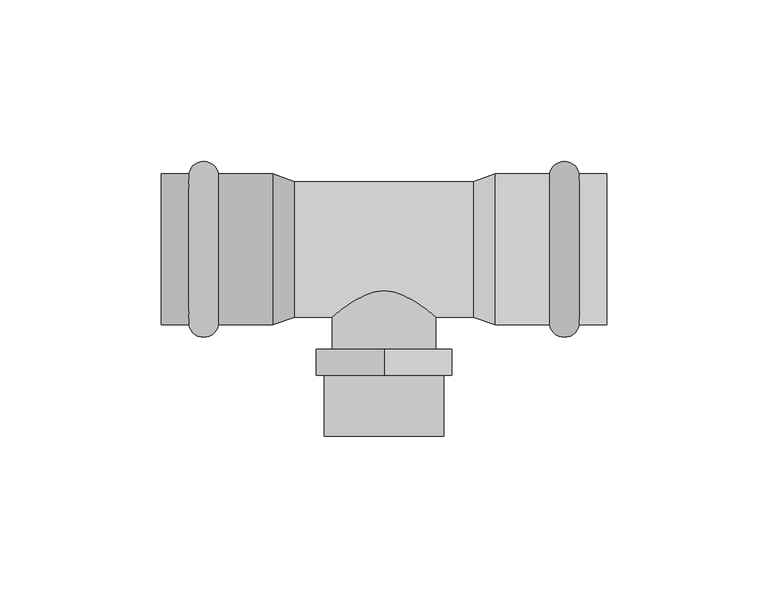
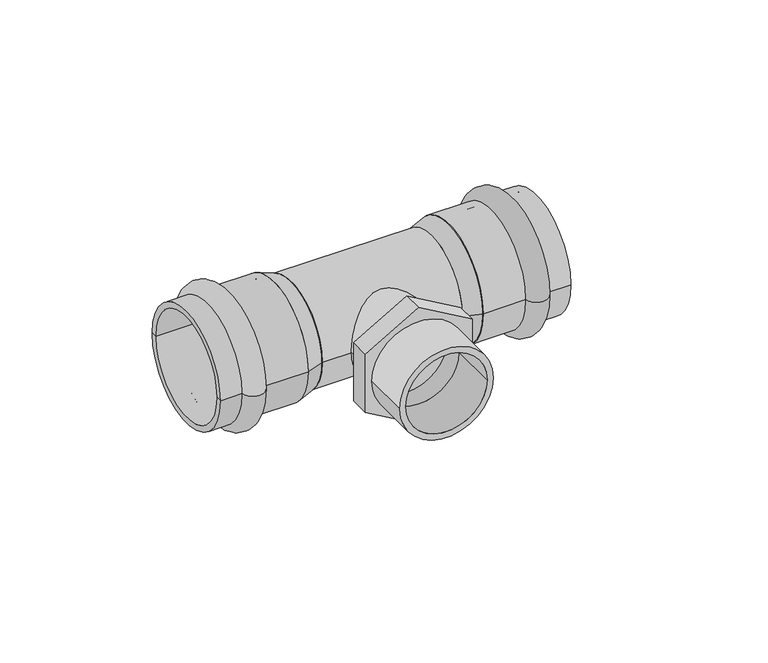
"""IFC4 building model written with IfcOpenShell, lengths in millimetres: pipe fitting geometry, VALTEC_VTi.933.I_Тройник с переходом на наружную  резьбу нержавеющая сталь : VTi.933.I."""

import ifcopenshell
import ifcopenshell.guid

model = None  # the IFC model being written
_history = None  # IfcOwnerHistory: only IFC2X3 demands one
_inside = {}  # id of a spatial element -> (the spatial element, [elements in it])
_under = {}  # id of a project, library or spatial element -> (it, [spatial elements below it])
_declared = {}  # id of a project -> (the project, [libraries it declares])
_typed = {}  # id of a type object -> (the type object, [elements of that type])
_made_of = {}  # id of a material, layer set ... -> (it, [elements and type objects made of it])


def new_model(schema):
    """Start an empty IFC model of exactly this schema.

    Asked for "IFC4X3", IfcOpenShell would pick the latest addendum, in which some entities
    have other attributes; the version numbers below select the first issue.
    IFC2X3 requires an IfcOwnerHistory on every rooted entity: one is made here for all.
    """
    global model, _history
    if schema == "IFC4X3":
        model = ifcopenshell.file(schema_version=(4, 3, 0, 0))
    else:
        model = ifcopenshell.file(schema=schema)
    _inside.clear()
    _under.clear()
    _declared.clear()
    _typed.clear()
    _made_of.clear()
    _history = None
    if model.schema == "IFC2X3":
        org = make("IfcOrganization", Name="unknown")
        user = make(
            "IfcPersonAndOrganization",
            ThePerson=make("IfcPerson", FamilyName="unknown"),
            TheOrganization=org,
        )
        app = make(
            "IfcApplication",
            ApplicationDeveloper=org,
            Version="unknown",
            ApplicationFullName="unknown",
            ApplicationIdentifier="unknown",
        )
        _history = make(
            "IfcOwnerHistory",
            OwningUser=user,
            OwningApplication=app,
            ChangeAction="ADDED",
            CreationDate=0,
        )
    return model


def make(cls, **values):
    """One entity of the class cls with the attributes given. An attribute that is None is left unset."""
    return model.create_entity(
        cls, **{name: value for name, value in values.items() if value is not None}
    )


def rooted(cls, **values):
    """An entity with a GlobalId (a new one), such as an element, a storey or a relation."""
    return make(cls, GlobalId=ifcopenshell.guid.new(), OwnerHistory=_history, **values)


def si_unit(unit_type, name, prefix=None):
    """IfcSIUnit, for example si_unit("LENGTHUNIT", "METRE", prefix="MILLI")."""
    return make("IfcSIUnit", UnitType=unit_type, Prefix=prefix, Name=name)


def assignment(units):
    """IfcUnitAssignment: the units of a project."""
    return None if units is None else make("IfcUnitAssignment", Units=units)


def point(xyz):
    """IfcCartesianPoint."""
    return None if xyz is None else make("IfcCartesianPoint", Coordinates=xyz)


def direction(xyz):
    """IfcDirection."""
    return None if xyz is None else make("IfcDirection", DirectionRatios=xyz)


def frame(location, z_axis=None, x_axis=None):
    """IfcAxis2Placement3D, a coordinate frame: its origin and axes. An axis left out is left unset."""
    return make(
        "IfcAxis2Placement3D",
        Location=point(location),
        Axis=direction(z_axis),
        RefDirection=direction(x_axis),
    )


def frame_2d(location, x_axis=None):
    """IfcAxis2Placement2D, a coordinate frame in the plane: its origin and x axis."""
    return make(
        "IfcAxis2Placement2D", Location=point(location), RefDirection=direction(x_axis)
    )


def origin():
    """The frame at (0, 0, 0) with its axes left unset."""
    return frame((0.0, 0.0, 0.0))


def origin_2d():
    """The frame at (0, 0) in the plane with its x axis left unset."""
    return frame_2d((0.0, 0.0))


def place(relative_to, where):
    """IfcLocalPlacement: puts the frame where relative to a parent placement (None: the world)."""
    return make(
        "IfcLocalPlacement", PlacementRelTo=relative_to, RelativePlacement=where
    )


def context(
    kind, dimensions, precision=None, world=None, true_north=None, identifier=None
):
    """IfcGeometricRepresentationContext, for example the 3D "Model" context."""
    return make(
        "IfcGeometricRepresentationContext",
        ContextIdentifier=identifier,
        ContextType=kind,
        CoordinateSpaceDimension=dimensions,
        Precision=precision,
        WorldCoordinateSystem=world,
        TrueNorth=true_north,
    )


def project(units=None, contexts=None):
    """IfcProject with its units and contexts."""
    return rooted(
        "IfcProject",
        Name="project",
        RepresentationContexts=contexts,
        UnitsInContext=assignment(units),
    )


def spatial(cls, under=None, at=None, **own):
    """A site, building, storey or space (cls), placed at a placement, below another one or the project."""
    s = rooted(cls, ObjectPlacement=at, **own)
    if under is not None:
        _under.setdefault(under.id(), (under, []))[1].append(s)
    return s


def polyline(points):
    """IfcPolyline through the points."""
    return make("IfcPolyline", Points=[point(p) for p in points])


def circle_curve(where, radius):
    """IfcCircle in the frame where."""
    return make("IfcCircle", Position=where, Radius=radius)


def ellipse_curve(where, semi_axis1, semi_axis2):
    """IfcEllipse in the frame where."""
    return make(
        "IfcEllipse", Position=where, SemiAxis1=semi_axis1, SemiAxis2=semi_axis2
    )


def trimmed(basis, trim1, trim2, sense, master):
    """IfcTrimmedCurve: the piece of a basis curve between two trims."""
    return make(
        "IfcTrimmedCurve",
        BasisCurve=basis,
        Trim1=trim1,
        Trim2=trim2,
        SenseAgreement=sense,
        MasterRepresentation=master,
    )


def segment(curve, same_sense, transition):
    """IfcCompositeCurveSegment."""
    return make(
        "IfcCompositeCurveSegment",
        Transition=transition,
        SameSense=same_sense,
        ParentCurve=curve,
    )


def composite_curve(segments, self_intersect=None):
    """IfcCompositeCurve: segments joined end to end."""
    return make("IfcCompositeCurve", Segments=segments, SelfIntersect=self_intersect)


def outline(outer, holes=None, kind="AREA"):
    """IfcArbitraryClosedProfileDef: a profile drawn as a closed curve; with holes, ...WithVoids."""
    if holes is None:
        return make("IfcArbitraryClosedProfileDef", ProfileType=kind, OuterCurve=outer)
    return make(
        "IfcArbitraryProfileDefWithVoids",
        ProfileType=kind,
        OuterCurve=outer,
        InnerCurves=holes,
    )


def extrude(swept, where, along, depth):
    """IfcExtrudedAreaSolid: the profile swept, set in the frame where, extruded along a direction by depth."""
    return make(
        "IfcExtrudedAreaSolid",
        SweptArea=swept,
        Position=where,
        ExtrudedDirection=direction(along),
        Depth=depth,
    )


def shape(context_of_items, identifier, shape_type, items):
    """IfcShapeRepresentation: the items that make up one representation, for example the "Body"."""
    return make(
        "IfcShapeRepresentation",
        ContextOfItems=context_of_items,
        RepresentationIdentifier=identifier,
        RepresentationType=shape_type,
        Items=items,
    )


def source(mapping_origin, context_of_items, identifier, shape_type, items):
    """IfcRepresentationMap: a shape defined once, which mapped items show again and again."""
    return make(
        "IfcRepresentationMap",
        MappingOrigin=mapping_origin,
        MappedRepresentation=shape(context_of_items, identifier, shape_type, items),
    )


def transform(
    local_origin,
    x_axis=None,
    y_axis=None,
    z_axis=None,
    scale=None,
    scale2=None,
    scale3=None,
    uniform=True,
):
    """IfcCartesianTransformationOperator3D, or its non-uniform kind. x_axis, y_axis, z_axis: its Axis1, 2, 3."""
    if uniform:
        return make(
            "IfcCartesianTransformationOperator3D",
            Axis1=direction(x_axis),
            Axis2=direction(y_axis),
            LocalOrigin=point(local_origin),
            Scale=scale,
            Axis3=direction(z_axis),
        )
    return make(
        "IfcCartesianTransformationOperator3DnonUniform",
        Axis1=direction(x_axis),
        Axis2=direction(y_axis),
        LocalOrigin=point(local_origin),
        Scale=scale,
        Axis3=direction(z_axis),
        Scale2=scale2,
        Scale3=scale3,
    )


def mapped(mapping_source, mapping_target):
    """IfcMappedItem: shows the shape of a source again, moved by a transform."""
    return make(
        "IfcMappedItem", MappingSource=mapping_source, MappingTarget=mapping_target
    )


def made_of(thing, what):
    """Note that an element or type object is made of a material, layer set ...; save() writes the relation."""
    if what is not None:
        _made_of.setdefault(what.id(), (what, []))[1].append(thing)
    return thing


def element(
    cls,
    number,
    at=None,
    inside=None,
    cuts=None,
    type_object=None,
    material=None,
    context=None,
    identifier="Body",
    shape_type=None,
    held_by="IfcProductDefinitionShape",
    body=None,
    shapes=None,
    **own,
):
    """One element of the class cls, such as IfcWall. Its Tag is "e" and its number.

    at: its placement. inside: the storey or other place that contains it. cuts: it is an
    opening in that element (IfcRelVoidsElement). A single representation is given by context,
    identifier, shape_type and body (its items); several are given by shapes. held_by: the class
    of the entity that holds the representations. save() writes the other relations.
    """
    e = rooted(cls, Tag="e%d" % number, ObjectPlacement=at, **own)
    if body is not None:
        shapes = [shape(context, identifier, shape_type, body)]
    if shapes is not None:
        e.Representation = make(held_by, Representations=shapes)
    if inside is not None:
        _inside.setdefault(inside.id(), (inside, []))[1].append(e)
    if cuts is not None:
        rooted(
            "IfcRelVoidsElement", RelatingBuildingElement=cuts, RelatedOpeningElement=e
        )
    if type_object is not None:
        _typed.setdefault(type_object.id(), (type_object, []))[1].append(e)
    return made_of(e, material)


def aggregate(whole, parts):
    """IfcRelAggregates: a whole, such as a stair, and the parts it consists of."""
    return rooted("IfcRelAggregates", RelatingObject=whole, RelatedObjects=parts)


def save(model, path):
    """Write the relations noted so far, then the file.

    IfcRelAggregates (storeys below a building ...), IfcRelContainedInSpatialStructure (elements
    in a storey), IfcRelDefinesByType, IfcRelAssociatesMaterial and IfcRelDeclares: one each for
    every whole, place, type object, material and project.
    """
    for whole, parts in _under.values():
        aggregate(whole, parts)
    for where, things in _inside.values():
        rooted(
            "IfcRelContainedInSpatialStructure",
            RelatedElements=things,
            RelatingStructure=where,
        )
    for kind, things in _typed.values():
        rooted("IfcRelDefinesByType", RelatedObjects=things, RelatingType=kind)
    for what, things in _made_of.values():
        rooted("IfcRelAssociatesMaterial", RelatedObjects=things, RelatingMaterial=what)
    for by, libraries in _declared.values():
        rooted("IfcRelDeclares", RelatingContext=by, RelatedDefinitions=libraries)
    model.write(path)


def plane_surface(at):
    """IfcPlane: the flat surface through the origin of the frame at, square to its z axis."""
    return make("IfcPlane", Position=at)


def cylinder_surface(at, radius):
    """IfcCylindricalSurface: all points at the distance radius from the z axis of the frame at."""
    return make("IfcCylindricalSurface", Position=at, Radius=radius)


def revolved_surface(curve, axis_point, axis_direction):
    """IfcSurfaceOfRevolution: the curve turned about the line through axis_point along axis_direction."""
    return make(
        "IfcSurfaceOfRevolution",
        SweptCurve=make("IfcArbitraryOpenProfileDef", ProfileType="CURVE", Curve=curve),
        AxisPosition=make("IfcAxis1Placement", Location=point(axis_point), Axis=direction(axis_direction)),
    )


def advanced_brep(points, edges, surfaces, faces):
    """IfcAdvancedBrep: a solid bounded by faces that lie on surfaces and meet in shared edges.

    An edge is (start, end): straight between two places in points (the first is 0);
    or (start, end, curve); or (start, end, curve, False) where it runs against its curve.
    A face is (place in surfaces, loops), or (place, loops, False) where it looks against
    its surface's normal. A loop lists edges by number (the first is 1), with a minus sign
    where the edge is run from its end to its start. The first loop is the outer one.
    """
    corners = [point(p) for p in points]
    vertices = [make("IfcVertexPoint", VertexGeometry=c) for c in corners]
    made = []
    for start, end, *more in edges:
        made.append(
            make(
                "IfcEdgeCurve",
                EdgeStart=vertices[start],
                EdgeEnd=vertices[end],
                EdgeGeometry=more[0] if more else make("IfcPolyline", Points=[corners[start], corners[end]]),
                SameSense=more[1] if len(more) > 1 else True,
            )
        )
    hull = []
    for where, loops, *sense in faces:
        bounds = []
        for j, loop in enumerate(loops):
            ring = [make("IfcOrientedEdge", EdgeElement=made[abs(k) - 1], Orientation=k > 0) for k in loop]
            bounds.append(
                make(
                    "IfcFaceOuterBound" if j == 0 else "IfcFaceBound",
                    Bound=make("IfcEdgeLoop", EdgeList=ring),
                    Orientation=True,
                )
            )
        hull.append(make("IfcAdvancedFace", Bounds=bounds, FaceSurface=surfaces[where], SameSense=sense[0] if sense else True))
    return make("IfcAdvancedBrep", Outer=make("IfcClosedShell", CfsFaces=hull))


def pipe_fitting_515d8af7(model_context):
    return source(origin(), model_context, "Body", "SolidModel", [
        advanced_brep(
        [(60.4464272, 23.35, 0.0), (60.4464272, -23.35, 0.0), (51.3535728, -23.35, 0.0), (51.3535728, 23.35, 0.0), (69.0, 23.35, 0.0), (69.0, -23.35, 0.0), (69.0, 21.0, 0.0), (69.0, -21.0, 0.0), (34.5, 21.0, 0.0), (34.5, -21.0, 0.0), (34.5, 23.35, 0.0), (34.5, -23.35, 0.0)],
        [
            (0, 1, circle_curve(frame((60.4464272, 0.0, 0.0), z_axis=(-1.0, 0.0, 0.0), x_axis=(0.0, -1.0, 0.0)), 23.35)),
            (1, 2, circle_curve(frame((55.9, -22.65, 0.0), z_axis=(0.0, 0.0, -1.0), x_axis=(-1.0, 0.0, 0.0)), 4.6)),
            (2, 3, circle_curve(frame((51.3535728, 0.0, 0.0), z_axis=(1.0, 0.0, 0.0), x_axis=(0.0, -1.0, 0.0)), 23.35)),
            (3, 0, circle_curve(frame((55.9, 22.65, 0.0), z_axis=(0.0, 0.0, -1.0), x_axis=(-1.0, 0.0, 0.0)), 4.6)),
            (1, 0, circle_curve(frame((60.4464272, 0.0, 0.0), z_axis=(-1.0, 0.0, 0.0), x_axis=(0.0, -1.0, 0.0)), 23.35)),
            (3, 2, circle_curve(frame((51.3535728, 0.0, 0.0), z_axis=(1.0, 0.0, 0.0), x_axis=(0.0, -1.0, 0.0)), 23.35)),
            (4, 5, circle_curve(frame((69.0, 0.0, 0.0), z_axis=(-1.0, 0.0, 0.0), x_axis=(0.0, -1.0, 0.0)), 23.35)),
            (5, 1),
            (0, 4),
            (5, 4, circle_curve(frame((69.0, 0.0, 0.0), z_axis=(-1.0, 0.0, 0.0), x_axis=(0.0, -1.0, 0.0)), 23.35)),
            (6, 7, circle_curve(frame((69.0, 0.0, 0.0), z_axis=(-1.0, 0.0, 0.0), x_axis=(0.0, -1.0, 0.0)), 21.0)),
            (7, 5),
            (4, 6),
            (7, 6, circle_curve(frame((69.0, 0.0, 0.0), z_axis=(-1.0, 0.0, 0.0), x_axis=(0.0, -1.0, 0.0)), 21.0)),
            (8, 9, circle_curve(frame((34.5, 0.0, 0.0), z_axis=(-1.0, 0.0, 0.0), x_axis=(0.0, -1.0, 0.0)), 21.0)),
            (9, 7),
            (6, 8),
            (9, 8, circle_curve(frame((34.5, 0.0, 0.0), z_axis=(-1.0, 0.0, 0.0), x_axis=(0.0, -1.0, 0.0)), 21.0)),
            (10, 11, circle_curve(frame((34.5, 0.0, 0.0), z_axis=(-1.0, 0.0, 0.0), x_axis=(0.0, -1.0, 0.0)), 23.35)),
            (11, 9),
            (8, 10),
            (11, 10, circle_curve(frame((34.5, 0.0, 0.0), z_axis=(-1.0, 0.0, 0.0), x_axis=(0.0, -1.0, 0.0)), 23.35)),
            (2, 11),
            (10, 3),
        ],
        [
            revolved_surface(trimmed(ellipse_curve(frame((55.9, -22.65, 0.0), z_axis=(0.0, 0.0, 1.0), x_axis=(-1.0, 0.0, 0.0)), 4.6, 4.6), [point((51.3535728, -23.35, 0.0))], [point((60.4464272, -23.35, 0.0))], True, "CARTESIAN"), (72.5364426, 0.0, 0.0), (1.0, 0.0, 0.0)),
            cylinder_surface(frame((72.5364426, 0.0, 0.0), z_axis=(1.0, 0.0, 0.0), x_axis=(0.0, -1.0, 0.0)), 23.35),
            plane_surface(frame((69.0, 0.0, 0.0), z_axis=(1.0, 0.0, 0.0), x_axis=(0.0, -1.0, 0.0))),
            revolved_surface(polyline([(69.0, -21.0, 0.0), (34.5, -21.0, 0.0)]), (72.5364426, 0.0, 0.0), (1.0, 0.0, 0.0)),
            plane_surface(frame((34.5, 0.0, 0.0), z_axis=(-1.0, 0.0, 0.0), x_axis=(0.0, -1.0, 0.0))),
        ],
        [
            (0, [[1, 2, 3, 4]]),
            (0, [[5, -4, 6, -2]]),
            (1, [[7, 8, -1, 9]]),
            (1, [[10, -9, -5, -8]]),
            (2, [[11, 12, -7, 13]]),
            (2, [[14, -13, -10, -12]]),
            (3, [[15, 16, -11, 17]]),
            (3, [[18, -17, -14, -16]]),
            (4, [[19, 20, -15, 21]]),
            (4, [[22, -21, -18, -20]]),
            (1, [[-3, 23, -19, 24]]),
            (1, [[-6, -24, -22, -23]]),
        ],
    ),
        advanced_brep(
        [(-60.4464272, -23.35, 0.0), (-60.4464272, 23.35, 0.0), (-51.3535728, 23.35, 0.0), (-51.3535728, -23.35, 0.0), (-69.0, -23.35, 0.0), (-69.0, 23.35, 0.0), (-69.0, -21.0, 0.0), (-69.0, 21.0, 0.0), (-34.5, -21.0, 0.0), (-34.5, 21.0, 0.0), (-34.5, -23.35, 0.0), (-34.5, 23.35, 0.0)],
        [
            (0, 1, circle_curve(frame((-60.4464272, 0.0, 0.0), z_axis=(1.0, 0.0, 0.0), x_axis=(0.0, 1.0, 0.0)), 23.35)),
            (1, 2, circle_curve(frame((-55.9, 22.65, 0.0), z_axis=(0.0, 0.0, -1.0), x_axis=(1.0, 0.0, 0.0)), 4.6)),
            (2, 3, circle_curve(frame((-51.3535728, 0.0, 0.0), z_axis=(-1.0, 0.0, 0.0), x_axis=(0.0, 1.0, 0.0)), 23.35)),
            (3, 0, circle_curve(frame((-55.9, -22.65, 0.0), z_axis=(0.0, 0.0, -1.0), x_axis=(1.0, 0.0, 0.0)), 4.6)),
            (1, 0, circle_curve(frame((-60.4464272, 0.0, 0.0), z_axis=(1.0, 0.0, 0.0), x_axis=(0.0, 1.0, 0.0)), 23.35)),
            (3, 2, circle_curve(frame((-51.3535728, 0.0, 0.0), z_axis=(-1.0, 0.0, 0.0), x_axis=(0.0, 1.0, 0.0)), 23.35)),
            (4, 5, circle_curve(frame((-69.0, 0.0, 0.0), z_axis=(1.0, 0.0, 0.0), x_axis=(0.0, 1.0, 0.0)), 23.35)),
            (5, 1),
            (0, 4),
            (5, 4, circle_curve(frame((-69.0, 0.0, 0.0), z_axis=(1.0, 0.0, 0.0), x_axis=(0.0, 1.0, 0.0)), 23.35)),
            (6, 7, circle_curve(frame((-69.0, 0.0, 0.0), z_axis=(1.0, 0.0, 0.0), x_axis=(0.0, 1.0, 0.0)), 21.0)),
            (7, 5),
            (4, 6),
            (7, 6, circle_curve(frame((-69.0, 0.0, 0.0), z_axis=(1.0, 0.0, 0.0), x_axis=(0.0, 1.0, 0.0)), 21.0)),
            (8, 9, circle_curve(frame((-34.5, 0.0, 0.0), z_axis=(1.0, 0.0, 0.0), x_axis=(0.0, 1.0, 0.0)), 21.0)),
            (9, 7),
            (6, 8),
            (9, 8, circle_curve(frame((-34.5, 0.0, 0.0), z_axis=(1.0, 0.0, 0.0), x_axis=(0.0, 1.0, 0.0)), 21.0)),
            (10, 11, circle_curve(frame((-34.5, 0.0, 0.0), z_axis=(1.0, 0.0, 0.0), x_axis=(0.0, 1.0, 0.0)), 23.35)),
            (11, 9),
            (8, 10),
            (11, 10, circle_curve(frame((-34.5, 0.0, 0.0), z_axis=(1.0, 0.0, 0.0), x_axis=(0.0, 1.0, 0.0)), 23.35)),
            (2, 11),
            (10, 3),
        ],
        [
            revolved_surface(trimmed(ellipse_curve(frame((-55.9, 22.65, 0.0), z_axis=(0.0, 0.0, 1.0), x_axis=(1.0, 0.0, 0.0)), 4.6, 4.6), [point((-51.3535728, 23.35, 0.0))], [point((-60.4464272, 23.35, 0.0))], True, "CARTESIAN"), (-72.5364426, 0.0, 0.0), (-1.0, 0.0, 0.0)),
            cylinder_surface(frame((-72.5364426, 0.0, 0.0), z_axis=(-1.0, 0.0, 0.0), x_axis=(0.0, 1.0, 0.0)), 23.35),
            plane_surface(frame((-69.0, 0.0, 0.0), z_axis=(-1.0, 0.0, 0.0), x_axis=(0.0, 1.0, 0.0))),
            revolved_surface(polyline([(-69.0, 21.0, 0.0), (-34.5, 21.0, 0.0)]), (-72.5364426, 0.0, 0.0), (-1.0, 0.0, 0.0)),
            plane_surface(frame((-34.5, 0.0, 0.0), z_axis=(1.0, 0.0, 0.0), x_axis=(0.0, 1.0, 0.0))),
        ],
        [
            (0, [[1, 2, 3, 4]]),
            (0, [[5, -4, 6, -2]]),
            (1, [[7, 8, -1, 9]]),
            (1, [[10, -9, -5, -8]]),
            (2, [[11, 12, -7, 13]]),
            (2, [[14, -13, -10, -12]]),
            (3, [[15, 16, -11, 17]]),
            (3, [[18, -17, -14, -16]]),
            (4, [[19, 20, -15, 21]]),
            (4, [[22, -21, -18, -20]]),
            (1, [[-3, 23, -19, 24]]),
            (1, [[-6, -24, -22, -23]]),
        ],
    ),
        extrude(outline(composite_curve([segment(trimmed(circle_curve(origin_2d(), 18.5), [point((0.0, -18.5))], [point((0.0, 18.5))], False, "CARTESIAN"), True, "CONTINUOUS"), segment(trimmed(circle_curve(origin_2d(), 18.5), [point((0.0, 18.5))], [point((0.0, -18.5))], False, "CARTESIAN"), True, "CONTINUOUS")], self_intersect=False), holes=[composite_curve([segment(trimmed(circle_curve(origin_2d(), 16.0), [point((0.0, -16.0))], [point((0.0, 16.0))], True, "CARTESIAN"), True, "CONTINUOUS"), segment(trimmed(circle_curve(origin_2d(), 16.0), [point((0.0, 16.0))], [point((0.0, -16.0))], True, "CARTESIAN"), True, "CONTINUOUS")], self_intersect=False)]), frame((0.0, -58.0, 0.0), z_axis=(0.0, 1.0, 0.0), x_axis=(0.0, 0.0, 1.0)), (0.0, 0.0, 1.0), 18.9),
        extrude(outline(polyline([(24.2487113, 0.0), (12.1243557, -21.0), (-12.1243557, -21.0), (-24.2487113, 0.0), (-12.1243557, 21.0), (12.1243557, 21.0), (24.2487113, 0.0)]), holes=[composite_curve([segment(trimmed(circle_curve(origin_2d(), 16.0), [point((0.0, -16.0))], [point((0.0, 16.0))], True, "CARTESIAN"), True, "CONTINUOUS"), segment(trimmed(circle_curve(origin_2d(), 16.0), [point((0.0, 16.0))], [point((0.0, -16.0))], True, "CARTESIAN"), True, "CONTINUOUS")], self_intersect=False)]), frame((0.0, -39.1, 0.0), z_axis=(0.0, 1.0, 0.0), x_axis=(0.0, 0.0, 1.0)), (0.0, 0.0, 1.0), 8.1),
        extrude(outline(composite_curve([segment(trimmed(circle_curve(origin_2d(), 16.0), [point((0.0, -16.0))], [point((0.0, 16.0))], False, "CARTESIAN"), True, "CONTINUOUS"), segment(trimmed(circle_curve(origin_2d(), 16.0), [point((0.0, 16.0))], [point((0.0, -16.0))], False, "CARTESIAN"), True, "CONTINUOUS")], self_intersect=False)), frame((0.0, -31.0, 0.0), z_axis=(0.0, 1.0, 0.0), x_axis=(0.0, 0.0, 1.0)), (0.0, 0.0, 1.0), 31.0),
        extrude(outline(composite_curve([segment(trimmed(circle_curve(origin_2d(), 21.0), [point((-21.0, 0.0))], [point((21.0, 0.0))], False, "CARTESIAN"), True, "CONTINUOUS"), segment(trimmed(circle_curve(origin_2d(), 21.0), [point((21.0, 0.0))], [point((-21.0, 0.0))], False, "CARTESIAN"), True, "CONTINUOUS")], self_intersect=False)), frame((-27.6, 0.0, 0.0), z_axis=(1.0, 0.0, 0.0), x_axis=(0.0, 1.0, 0.0)), (0.0, 0.0, 1.0), 55.2),
        advanced_brep(
        [(34.5, -23.35, 0.0), (34.5, 23.35, 0.0), (27.6, -21.0, 0.0), (27.6, 21.0, 0.0)],
        [
            (0, 1, circle_curve(frame((34.5, 0.0, 0.0), z_axis=(1.0, 0.0, 0.0), x_axis=(0.0, -1.0, 0.0)), 23.35)),
            (1, 0, circle_curve(frame((34.5, 0.0, 0.0), z_axis=(1.0, 0.0, 0.0), x_axis=(0.0, 1.0, 0.0)), 23.35)),
            (2, 3, circle_curve(frame((27.6, 0.0, 0.0), z_axis=(-1.0, 0.0, 0.0), x_axis=(0.0, 1.0, 0.0)), 21.0)),
            (3, 2, circle_curve(frame((27.6, 0.0, 0.0), z_axis=(-1.0, 0.0, 0.0), x_axis=(0.0, -1.0, 0.0)), 21.0)),
            (3, 1),
            (0, 2),
        ],
        [
            plane_surface(frame((34.5, 0.0, 0.0), z_axis=(1.0, 0.0, 0.0), x_axis=(0.0, 0.0, 1.0))),
            plane_surface(frame((27.6, 0.0, 0.0), z_axis=(-1.0, 0.0, 0.0), x_axis=(0.0, 0.0, 1.0))),
            revolved_surface(polyline([(27.6, 21.00000000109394, 0.0), (34.5, 23.35, 0.0)]), (-34.0595745, 0.0, 0.0), (1.0, 0.0, 0.0)),
            revolved_surface(polyline([(27.6, -21.00000000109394, 0.0), (34.5, -23.35, 0.0)]), (-34.0595745, 0.0, 0.0), (1.0, 0.0, 0.0)),
        ],
        [
            (0, [[1, 2]]),
            (1, [[3, 4]]),
            (2, [[-4, 5, -1, 6]]),
            (3, [[-3, -6, -2, -5]]),
        ],
    ),
        advanced_brep(
        [(-34.5, -23.35, 0.0), (-34.5, 23.35, 0.0), (-27.6, -21.0, 0.0), (-27.6, 21.0, 0.0)],
        [
            (0, 1, circle_curve(frame((-34.5, 0.0, 0.0), z_axis=(-1.0, 0.0, 0.0), x_axis=(0.0, -1.0, 0.0)), 23.35)),
            (1, 0, circle_curve(frame((-34.5, 0.0, 0.0), z_axis=(-1.0, 0.0, 0.0), x_axis=(0.0, 1.0, 0.0)), 23.35)),
            (2, 3, circle_curve(frame((-27.6, 0.0, 0.0), z_axis=(1.0, 0.0, 0.0), x_axis=(0.0, 1.0, 0.0)), 21.0)),
            (3, 2, circle_curve(frame((-27.6, 0.0, 0.0), z_axis=(1.0, 0.0, 0.0), x_axis=(0.0, -1.0, 0.0)), 21.0)),
            (2, 0),
            (1, 3),
        ],
        [
            plane_surface(frame((-34.5, 0.0, 0.0), z_axis=(-1.0, 0.0, 0.0), x_axis=(0.0, 0.0, -1.0))),
            plane_surface(frame((-27.6, 0.0, 0.0), z_axis=(1.0, 0.0, 0.0), x_axis=(0.0, 0.0, -1.0))),
            revolved_surface(polyline([(-27.6, -21.00000000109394, 0.0), (-34.5, -23.35, 0.0)]), (34.0595745, 0.0, 0.0), (-1.0, 0.0, 0.0)),
            revolved_surface(polyline([(-27.6, 21.00000000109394, 0.0), (-34.5, 23.35, 0.0)]), (34.0595745, 0.0, 0.0), (-1.0, 0.0, 0.0)),
        ],
        [
            (0, [[1, 2]]),
            (1, [[3, 4]]),
            (2, [[-3, 5, -2, 6]]),
            (3, [[-4, -6, -1, -5]]),
        ],
    ),
    ])


if __name__ == "__main__":
    model = new_model("IFC4")
    model_context = context("Model", 3, world=origin())
    ifc_project = project(units=[si_unit("LENGTHUNIT", "METRE", prefix="MILLI")], contexts=[model_context])
    site = spatial("IfcSite", under=ifc_project)
    building = spatial("IfcBuilding", under=site)
    placement = place(None, origin())
    pipe_fitting_shape = pipe_fitting_515d8af7(model_context)
    element("IfcPipeFitting", 1, ObjectType="VALTEC_VTi.933.I_Тройник с переходом на наружную  резьбу нержавеющая сталь : VTi.933.I", at=placement, inside=building, context=model_context, shape_type="MappedRepresentation", body=[
        mapped(pipe_fitting_shape, transform((0.0, 0.0, 0.0), x_axis=(1.0, 0.0, 0.0), y_axis=(0.0, 1.0, 0.0), z_axis=(0.0, 0.0, 1.0))),
    ])
    save(model, "model.ifc")
